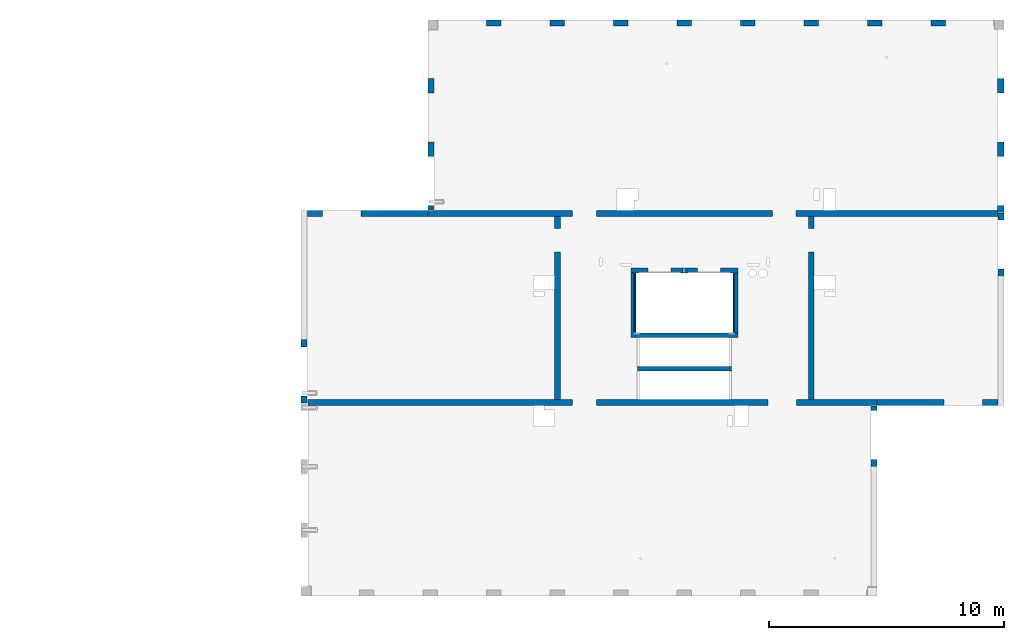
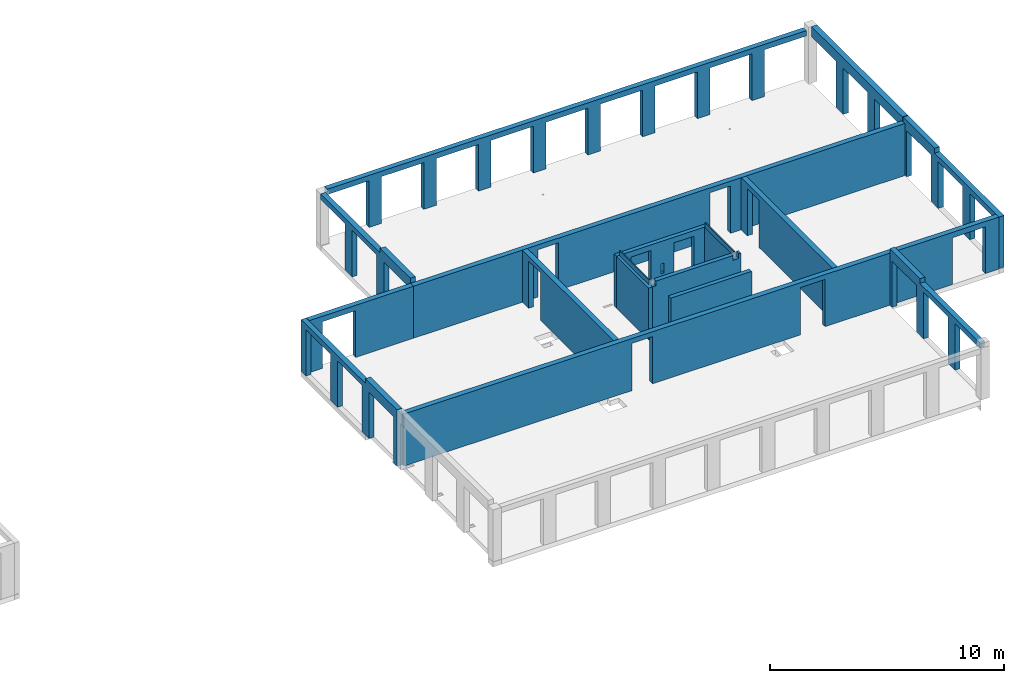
# One storey, part 4 of 8: 19 walls, 42 openings.
"""IFC2X3 building model written with IfcOpenShell, lengths in millimetres."""

import ifcopenshell
import ifcopenshell.guid

model = None  # the IFC model being written
_history = None  # IfcOwnerHistory: only IFC2X3 demands one
_inside = {}  # id of a spatial element -> (the spatial element, [elements in it])
_under = {}  # id of a project, library or spatial element -> (it, [spatial elements below it])
_declared = {}  # id of a project -> (the project, [libraries it declares])
_typed = {}  # id of a type object -> (the type object, [elements of that type])
_made_of = {}  # id of a material, layer set ... -> (it, [elements and type objects made of it])


def new_model(schema):
    """Start an empty IFC model of exactly this schema.

    Asked for "IFC4X3", IfcOpenShell would pick the latest addendum, in which some entities
    have other attributes; the version numbers below select the first issue.
    IFC2X3 requires an IfcOwnerHistory on every rooted entity: one is made here for all.
    """
    global model, _history
    if schema == "IFC4X3":
        model = ifcopenshell.file(schema_version=(4, 3, 0, 0))
    else:
        model = ifcopenshell.file(schema=schema)
    _inside.clear()
    _under.clear()
    _declared.clear()
    _typed.clear()
    _made_of.clear()
    _history = None
    if model.schema == "IFC2X3":
        org = make("IfcOrganization", Name="unknown")
        user = make(
            "IfcPersonAndOrganization",
            ThePerson=make("IfcPerson", FamilyName="unknown"),
            TheOrganization=org,
        )
        app = make(
            "IfcApplication",
            ApplicationDeveloper=org,
            Version="unknown",
            ApplicationFullName="unknown",
            ApplicationIdentifier="unknown",
        )
        _history = make(
            "IfcOwnerHistory",
            OwningUser=user,
            OwningApplication=app,
            ChangeAction="ADDED",
            CreationDate=0,
        )
    return model


def make(cls, **values):
    """One entity of the class cls with the attributes given. An attribute that is None is left unset."""
    return model.create_entity(
        cls, **{name: value for name, value in values.items() if value is not None}
    )


def entity(cls, *values):
    """Any entity or typed value of the class cls, its attributes in the order of the schema. None: left unset."""
    e = model.create_entity(cls)
    for i, value in enumerate(values):
        if value is not None:
            e[i] = value
    return e


def rooted(cls, **values):
    """An entity with a GlobalId (a new one), such as an element, a storey or a relation."""
    return make(cls, GlobalId=ifcopenshell.guid.new(), OwnerHistory=_history, **values)


def si_unit(unit_type, name, prefix=None):
    """IfcSIUnit, for example si_unit("LENGTHUNIT", "METRE", prefix="MILLI")."""
    return make("IfcSIUnit", UnitType=unit_type, Prefix=prefix, Name=name)


def converted_unit(unit_type, name, factor, base, dimensions=None, offset=None):
    """IfcConversionBasedUnit, such as the inch: factor (a typed value) times the base unit."""
    return make(
        "IfcConversionBasedUnit"
        if offset is None
        else "IfcConversionBasedUnitWithOffset",
        ConversionOffset=offset,
        Dimensions=None
        if dimensions is None
        else entity("IfcDimensionalExponents", *dimensions),
        UnitType=unit_type,
        Name=name,
        ConversionFactor=make(
            "IfcMeasureWithUnit", ValueComponent=factor, UnitComponent=base
        ),
    )


def derived_unit(unit_type, elements):
    """IfcDerivedUnit: a product of units, each with its exponent."""
    return make(
        "IfcDerivedUnit",
        Elements=[
            make("IfcDerivedUnitElement", Unit=unit, Exponent=power)
            for unit, power in elements
        ],
        UnitType=unit_type,
    )


def assignment(units):
    """IfcUnitAssignment: the units of a project."""
    return None if units is None else make("IfcUnitAssignment", Units=units)


def point(xyz):
    """IfcCartesianPoint."""
    return None if xyz is None else make("IfcCartesianPoint", Coordinates=xyz)


def direction(xyz):
    """IfcDirection."""
    return None if xyz is None else make("IfcDirection", DirectionRatios=xyz)


def frame(location, z_axis=None, x_axis=None):
    """IfcAxis2Placement3D, a coordinate frame: its origin and axes. An axis left out is left unset."""
    return make(
        "IfcAxis2Placement3D",
        Location=point(location),
        Axis=direction(z_axis),
        RefDirection=direction(x_axis),
    )


def frame_2d(location, x_axis=None):
    """IfcAxis2Placement2D, a coordinate frame in the plane: its origin and x axis."""
    return make(
        "IfcAxis2Placement2D", Location=point(location), RefDirection=direction(x_axis)
    )


def origin():
    """The frame at (0, 0, 0) with its axes left unset."""
    return frame((0.0, 0.0, 0.0))


def place(relative_to, where):
    """IfcLocalPlacement: puts the frame where relative to a parent placement (None: the world)."""
    return make(
        "IfcLocalPlacement", PlacementRelTo=relative_to, RelativePlacement=where
    )


def context(
    kind, dimensions, precision=None, world=None, true_north=None, identifier=None
):
    """IfcGeometricRepresentationContext, for example the 3D "Model" context."""
    return make(
        "IfcGeometricRepresentationContext",
        ContextIdentifier=identifier,
        ContextType=kind,
        CoordinateSpaceDimension=dimensions,
        Precision=precision,
        WorldCoordinateSystem=world,
        TrueNorth=true_north,
    )


def subcontext(parent, identifier, kind, view, scale=None):
    """IfcGeometricRepresentationSubContext, for example "Body" below "Model"."""
    return make(
        "IfcGeometricRepresentationSubContext",
        ContextIdentifier=identifier,
        ContextType=kind,
        ParentContext=parent,
        TargetScale=scale,
        TargetView=view,
    )


def project(units=None, contexts=None):
    """IfcProject with its units and contexts."""
    return rooted(
        "IfcProject",
        Name="project",
        RepresentationContexts=contexts,
        UnitsInContext=assignment(units),
    )


def spatial(cls, under=None, at=None, **own):
    """A site, building, storey or space (cls), placed at a placement, below another one or the project."""
    s = rooted(cls, ObjectPlacement=at, **own)
    if under is not None:
        _under.setdefault(under.id(), (under, []))[1].append(s)
    return s


def profile(cls, at=None, kind="AREA", **sizes):
    """A parametric profile (cls). Its sizes go by their IFC names, for example OverallWidth=200.0."""
    return make(cls, ProfileType=kind, Position=at, **sizes)


def rectangle(**sizes):
    """IfcRectangleProfileDef."""
    return profile("IfcRectangleProfileDef", **sizes)


def extrude(swept, where, along, depth):
    """IfcExtrudedAreaSolid: the profile swept, set in the frame where, extruded along a direction by depth."""
    return make(
        "IfcExtrudedAreaSolid",
        SweptArea=swept,
        Position=where,
        ExtrudedDirection=direction(along),
        Depth=depth,
    )


def shape(context_of_items, identifier, shape_type, items):
    """IfcShapeRepresentation: the items that make up one representation, for example the "Body"."""
    return make(
        "IfcShapeRepresentation",
        ContextOfItems=context_of_items,
        RepresentationIdentifier=identifier,
        RepresentationType=shape_type,
        Items=items,
    )


def material(Name=None, Category=None):
    """IfcMaterial."""
    return make("IfcMaterial", Name=Name, Category=Category)


def layer(
    of_material, thickness, ventilated=None, Name=None, Category=None, Priority=None
):
    """IfcMaterialLayer: one layer of a wall or slab, of a material (None: an air gap)."""
    return make(
        "IfcMaterialLayer",
        Material=of_material,
        LayerThickness=thickness,
        IsVentilated=ventilated,
        Name=Name,
        Category=Category,
        Priority=Priority,
    )


def layer_set(layers, Name=None):
    """IfcMaterialLayerSet."""
    return make("IfcMaterialLayerSet", MaterialLayers=layers, LayerSetName=Name)


def layer_usage(for_layer_set, set_direction, sense, offset, extent=None):
    """IfcMaterialLayerSetUsage: how a layer set lies in its element."""
    return make(
        "IfcMaterialLayerSetUsage",
        ForLayerSet=for_layer_set,
        LayerSetDirection=set_direction,
        DirectionSense=sense,
        OffsetFromReferenceLine=offset,
        ReferenceExtent=extent,
    )


def made_of(thing, what):
    """Note that an element or type object is made of a material, layer set ...; save() writes the relation."""
    if what is not None:
        _made_of.setdefault(what.id(), (what, []))[1].append(thing)
    return thing


def type_object(cls, material=None, **own):
    """A type object (cls), such as IfcWallType, which elements share."""
    return made_of(rooted(cls, **own), material)


def element(
    cls,
    number,
    at=None,
    inside=None,
    cuts=None,
    type_object=None,
    material=None,
    context=None,
    identifier="Body",
    shape_type=None,
    held_by="IfcProductDefinitionShape",
    body=None,
    shapes=None,
    **own,
):
    """One element of the class cls, such as IfcWall. Its Tag is "e" and its number.

    at: its placement. inside: the storey or other place that contains it. cuts: it is an
    opening in that element (IfcRelVoidsElement). A single representation is given by context,
    identifier, shape_type and body (its items); several are given by shapes. held_by: the class
    of the entity that holds the representations. save() writes the other relations.
    """
    e = rooted(cls, Tag="e%d" % number, ObjectPlacement=at, **own)
    if body is not None:
        shapes = [shape(context, identifier, shape_type, body)]
    if shapes is not None:
        e.Representation = make(held_by, Representations=shapes)
    if inside is not None:
        _inside.setdefault(inside.id(), (inside, []))[1].append(e)
    if cuts is not None:
        rooted(
            "IfcRelVoidsElement", RelatingBuildingElement=cuts, RelatedOpeningElement=e
        )
    if type_object is not None:
        _typed.setdefault(type_object.id(), (type_object, []))[1].append(e)
    return made_of(e, material)


def aggregate(whole, parts):
    """IfcRelAggregates: a whole, such as a stair, and the parts it consists of."""
    return rooted("IfcRelAggregates", RelatingObject=whole, RelatedObjects=parts)


def save(model, path):
    """Write the relations noted so far, then the file.

    IfcRelAggregates (storeys below a building ...), IfcRelContainedInSpatialStructure (elements
    in a storey), IfcRelDefinesByType, IfcRelAssociatesMaterial and IfcRelDeclares: one each for
    every whole, place, type object, material and project.
    """
    for whole, parts in _under.values():
        aggregate(whole, parts)
    for where, things in _inside.values():
        rooted(
            "IfcRelContainedInSpatialStructure",
            RelatedElements=things,
            RelatingStructure=where,
        )
    for kind, things in _typed.values():
        rooted("IfcRelDefinesByType", RelatedObjects=things, RelatingType=kind)
    for what, things in _made_of.values():
        rooted("IfcRelAssociatesMaterial", RelatedObjects=things, RelatingMaterial=what)
    for by, libraries in _declared.values():
        rooted("IfcRelDeclares", RelatingContext=by, RelatedDefinitions=libraries)
    model.write(path)


model = new_model("IFC2X3")

# Units and contexts
model_context = context("Model", 3, precision=0.01, world=origin(), true_north=direction((6.12303176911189e-17, 1.0)))
body_context = subcontext(model_context, "Body", "Model", "MODEL_VIEW")
ifc_project = project(units=[si_unit("LENGTHUNIT", "METRE", prefix="MILLI"), si_unit("AREAUNIT", "SQUARE_METRE"), si_unit("VOLUMEUNIT", "CUBIC_METRE"), converted_unit("PLANEANGLEUNIT", "DEGREE", entity("IfcRatioMeasure", 0.0174532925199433), si_unit("PLANEANGLEUNIT", "RADIAN"), dimensions=[0, 0, 0, 0, 0, 0, 0]), si_unit("MASSUNIT", "GRAM", prefix="KILO"), derived_unit("MASSDENSITYUNIT", [(si_unit("MASSUNIT", "GRAM", prefix="KILO"), 1), (si_unit("LENGTHUNIT", "METRE"), -3)]), si_unit("TIMEUNIT", "SECOND"), si_unit("FREQUENCYUNIT", "HERTZ"), si_unit("THERMODYNAMICTEMPERATUREUNIT", "DEGREE_CELSIUS"), derived_unit("THERMALTRANSMITTANCEUNIT", [(si_unit("MASSUNIT", "GRAM", prefix="KILO"), 1), (si_unit("THERMODYNAMICTEMPERATUREUNIT", "KELVIN"), -1), (si_unit("TIMEUNIT", "SECOND"), -3)]), derived_unit("VOLUMETRICFLOWRATEUNIT", [(si_unit("LENGTHUNIT", "METRE"), 3), (si_unit("TIMEUNIT", "SECOND"), -1)]), si_unit("ELECTRICCURRENTUNIT", "AMPERE"), si_unit("ELECTRICVOLTAGEUNIT", "VOLT"), si_unit("POWERUNIT", "WATT"), si_unit("FORCEUNIT", "NEWTON", prefix="KILO"), si_unit("ILLUMINANCEUNIT", "LUX"), si_unit("LUMINOUSFLUXUNIT", "LUMEN"), si_unit("LUMINOUSINTENSITYUNIT", "CANDELA"), derived_unit("USERDEFINED", [(si_unit("MASSUNIT", "GRAM", prefix="KILO"), -1), (si_unit("LENGTHUNIT", "METRE"), -2), (si_unit("TIMEUNIT", "SECOND"), 3), (si_unit("LUMINOUSFLUXUNIT", "LUMEN"), 1)]), derived_unit("LINEARVELOCITYUNIT", [(si_unit("LENGTHUNIT", "METRE"), 1), (si_unit("TIMEUNIT", "SECOND"), -1)]), si_unit("PRESSUREUNIT", "PASCAL"), derived_unit("USERDEFINED", [(si_unit("LENGTHUNIT", "METRE"), -2), (si_unit("MASSUNIT", "GRAM", prefix="KILO"), 1), (si_unit("TIMEUNIT", "SECOND"), -2)])], contexts=[model_context])

# Site, building, storey
site_placement = place(None, origin())
site = spatial("IfcSite", under=ifc_project, at=site_placement, Name="Default", CompositionType="ELEMENT")
building_placement = place(site_placement, origin())
building = spatial("IfcBuilding", under=site, at=building_placement, Name="niet gebruiken", CompositionType="ELEMENT")
storey_placement = place(building_placement, frame((0.0, 0.0, 51210.0)))
storey = spatial("IfcBuildingStorey", under=building, at=storey_placement, Name="17 zeventiende verdieping", CompositionType="ELEMENT", Elevation=51210.0)

# Wall, openings
ifc_material_1 = material(Name="NLRS_f2_beton ihwg")
ifc_layer_1 = layer(ifc_material_1, 250.0)
ifc_layer_set_1 = layer_set([ifc_layer_1], Name="Basic Wall:NLRS_22.21_WA_beton ihwg d=250_gen")
ifc_layer_usage_1 = layer_usage(ifc_layer_set_1, "AXIS2", "NEGATIVE", 125.0)
wall_type_1 = type_object("IfcWallType", Name="Basic Wall:NLRS_22.21_WA_beton ihwg d=250_gen", PredefinedType="STANDARD", material=ifc_layer_set_1)
wall_1_placement = place(storey_placement, frame((75770.0, 36981.0, -90.0)))
wall_1 = element("IfcWallStandardCase", 1, at=wall_1_placement, inside=storey, type_object=wall_type_1, material=ifc_layer_usage_1, Name="Basic Wall:NLRS_22.21_WA_beton ihwg d=250_gen", ObjectType="Basic Wall:NLRS_22.21_WA_beton ihwg d=250_gen", context=body_context, shape_type="SweptSolid", body=[
    extrude(rectangle(XDim=24230.0000000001, YDim=250.000000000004, at=frame_2d((12115.0, 0.0), x_axis=(-1.0, 0.0))), origin(), (0.0, 0.0, 1.0), 2719.99999999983),
])
opening_1_placement = place(wall_1_placement, origin())
element("IfcOpeningElement", 2, at=opening_1_placement, cuts=wall_1, Name="Basic Wall:NLRS_22.21_WA_beton ihwg d=250_gen", ObjectType="Opening", context=body_context, shape_type="SweptSolid", body=[
    extrude(rectangle(XDim=2470.0, YDim=1225.0, at=frame_2d((-8.69704308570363e-12, 4.43378667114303e-12), x_axis=(0.0, 1.0))), frame((20192.5000000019, -1399.0, 1235.0), z_axis=(0.0, 1.0, 0.0), x_axis=(-1.0, 0.0, 0.0)), (0.0, 0.0, 1.0), 3048.0),
])
opening_2_placement = place(wall_1_placement, origin())
element("IfcOpeningElement", 3, at=opening_2_placement, cuts=wall_1, Name="Basic Wall:NLRS_22.21_WA_beton ihwg d=250_gen", ObjectType="Opening", context=body_context, shape_type="SweptSolid", body=[
    extrude(rectangle(XDim=2470.0, YDim=1006.0, at=frame_2d((8.66862137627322e-12, -4.43378667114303e-12), x_axis=(0.0, 1.0))), frame((11782.0, -1399.0, 1235.0), z_axis=(0.0, 1.0, 0.0), x_axis=(-1.0, 0.0, 0.0)), (0.0, 0.0, 1.0), 3048.0),
])
opening_3_placement = place(wall_1_placement, origin())
element("IfcOpeningElement", 4, at=opening_3_placement, cuts=wall_1, Name="Basic Wall:NLRS_22.21_WA_beton ihwg d=250_gen", ObjectType="Recess", context=body_context, shape_type="SweptSolid", body=[
    extrude(rectangle(XDim=55000.0, YDim=19.9999999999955, at=frame_2d((0.0, 4.33164615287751e-12), x_axis=(1.0, 0.0))), frame((10.0, -140.0, -11110.0), z_axis=(0.0, 1.0, 0.0), x_axis=(0.0, 0.0, -1.0)), (0.0, 0.0, 1.0), 124.999999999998),
])

# Wall, opening
ifc_layer_usage_2 = layer_usage(ifc_layer_set_1, "AXIS2", "NEGATIVE", 125.0)
wall_2_placement = place(storey_placement, frame((75770.0, 45031.0, -90.0)))
wall_2 = element("IfcWallStandardCase", 5, at=wall_2_placement, inside=storey, type_object=wall_type_1, material=ifc_layer_usage_2, Name="Basic Wall:NLRS_22.21_WA_beton ihwg d=250_gen", ObjectType="Basic Wall:NLRS_22.21_WA_beton ihwg d=250_gen", context=body_context, shape_type="SweptSolid", body=[
    extrude(rectangle(XDim=5130.0, YDim=249.999999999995, at=frame_2d((2565.0, 0.0), x_axis=(-1.0, 0.0))), origin(), (0.0, 0.0, 1.0), 2719.99999999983),
])
opening_4_placement = place(wall_2_placement, origin())
element("IfcOpeningElement", 6, at=opening_4_placement, cuts=wall_2, Name="Basic Wall:NLRS_22.21_WA_beton ihwg d=250_gen", ObjectType="Opening", context=body_context, shape_type="SweptSolid", body=[
    extrude(rectangle(XDim=2440.0, YDim=1640.0, at=frame_2d((0.0, 4.37694325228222e-12), x_axis=(1.0, 0.0))), frame((1460.0, -1649.0, 1220.0), z_axis=(0.0, 1.0, 0.0), x_axis=(0.0, 0.0, 1.0)), (0.0, 0.0, 1.0), 3048.0),
])

ifc_layer_usage_3 = layer_usage(ifc_layer_set_1, "AXIS2", "NEGATIVE", 125.0)
wall_3_placement = place(storey_placement, frame((86400.0, 44906.0, -90.0), z_axis=(0.0, 0.0, 1.0), x_axis=(0.0, -1.0, 0.0)))
wall_3 = element("IfcWallStandardCase", 7, at=wall_3_placement, inside=storey, type_object=wall_type_1, material=ifc_layer_usage_3, Name="Basic Wall:NLRS_22.21_WA_beton ihwg d=250_gen", ObjectType="Basic Wall:NLRS_22.21_WA_beton ihwg d=250_gen", context=body_context, shape_type="SweptSolid", body=[
    extrude(rectangle(XDim=7799.99999999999, YDim=250.000000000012, at=frame_2d((3900.0, 0.0), x_axis=(-1.0, 0.0))), origin(), (0.0, 0.0, 1.0), 2719.99999999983),
])
opening_5_placement = place(wall_3_placement, origin())
element("IfcOpeningElement", 8, at=opening_5_placement, cuts=wall_3, Name="Basic Wall:NLRS_22.21_WA_beton ihwg d=250_gen", ObjectType="Opening", context=body_context, shape_type="SweptSolid", body=[
    extrude(rectangle(XDim=2470.0, YDim=1006.0, at=frame_2d((4.43378667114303e-12, 0.0), x_axis=(1.0, 0.0))), frame((1027.0, -1649.0, 1235.0), z_axis=(0.0, 1.0, 0.0), x_axis=(0.0, 0.0, 1.0)), (0.0, 0.0, 1.0), 3048.0),
])

ifc_layer_usage_4 = layer_usage(ifc_layer_set_1, "AXIS2", "NEGATIVE", 125.0)
wall_4_placement = place(storey_placement, frame((97200.0, 44906.0, -90.0), z_axis=(0.0, 0.0, 1.0), x_axis=(0.0, -1.0, 0.0)))
wall_4 = element("IfcWallStandardCase", 9, at=wall_4_placement, inside=storey, type_object=wall_type_1, material=ifc_layer_usage_4, Name="Basic Wall:NLRS_22.21_WA_beton ihwg d=250_gen", ObjectType="Basic Wall:NLRS_22.21_WA_beton ihwg d=250_gen", context=body_context, shape_type="SweptSolid", body=[
    extrude(rectangle(XDim=7799.99999999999, YDim=250.000000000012, at=frame_2d((3900.0, 0.0), x_axis=(-1.0, 0.0))), origin(), (0.0, 0.0, 1.0), 2719.99999999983),
])
opening_6_placement = place(wall_4_placement, origin())
element("IfcOpeningElement", 10, at=opening_6_placement, cuts=wall_4, Name="Basic Wall:NLRS_22.21_WA_beton ihwg d=250_gen", ObjectType="Opening", context=body_context, shape_type="SweptSolid", body=[
    extrude(rectangle(XDim=2470.0, YDim=1006.0, at=frame_2d((-4.43378667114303e-12, 0.0), x_axis=(1.0, 0.0))), frame((1027.0, -1649.0, 1235.0), z_axis=(0.0, 1.0, 0.0), x_axis=(0.0, 0.0, 1.0)), (0.0, 0.0, 1.0), 3048.0),
])

# Wall, openings
ifc_layer_usage_5 = layer_usage(ifc_layer_set_1, "AXIS2", "NEGATIVE", 125.0)
wall_5_placement = place(storey_placement, frame((80900.0, 45031.0, -90.0)))
wall_5 = element("IfcWallStandardCase", 11, at=wall_5_placement, inside=storey, type_object=wall_type_1, material=ifc_layer_usage_5, Name="Basic Wall:NLRS_22.21_WA_beton ihwg d=250_gen", ObjectType="Basic Wall:NLRS_22.21_WA_beton ihwg d=250_gen", context=body_context, shape_type="SweptSolid", body=[
    extrude(rectangle(XDim=24250.0, YDim=249.999999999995, at=frame_2d((12125.0, 0.0), x_axis=(-1.0, 0.0))), origin(), (0.0, 0.0, 1.0), 2719.99999999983),
])
opening_7_placement = place(wall_5_placement, origin())
element("IfcOpeningElement", 12, at=opening_7_placement, cuts=wall_5, Name="Basic Wall:NLRS_22.21_WA_beton ihwg d=250_gen", ObjectType="Opening", context=body_context, shape_type="SweptSolid", body=[
    extrude(rectangle(XDim=2470.0, YDim=1006.0, at=frame_2d((-4.43378667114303e-12, 8.66862137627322e-12), x_axis=(1.0, 0.0))), frame((15148.0, -1649.0, 1235.0), z_axis=(0.0, 1.0, 0.0), x_axis=(0.0, 0.0, 1.0)), (0.0, 0.0, 1.0), 3048.0),
])
opening_8_placement = place(wall_5_placement, origin())
element("IfcOpeningElement", 13, at=opening_8_placement, cuts=wall_5, Name="Basic Wall:NLRS_22.21_WA_beton ihwg d=250_gen", ObjectType="Opening", context=body_context, shape_type="SweptSolid", body=[
    extrude(rectangle(XDim=2470.0, YDim=1006.0, at=frame_2d((4.43378667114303e-12, 8.66862137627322e-12), x_axis=(1.0, 0.0))), frame((6652.0, -1649.0, 1235.0), z_axis=(0.0, 1.0, 0.0), x_axis=(0.0, 0.0, 1.0)), (0.0, 0.0, 1.0), 3048.0),
])

# Wall, opening
ifc_layer_usage_6 = layer_usage(ifc_layer_set_1, "AXIS2", "NEGATIVE", 125.0)
wall_6_placement = place(storey_placement, frame((100000.0, 36981.0, -90.0)))
wall_6 = element("IfcWallStandardCase", 14, at=wall_6_placement, inside=storey, type_object=wall_type_1, material=ifc_layer_usage_6, Name="Basic Wall:NLRS_22.21_WA_beton ihwg d=250_gen", ObjectType="Basic Wall:NLRS_22.21_WA_beton ihwg d=250_gen", context=body_context, shape_type="SweptSolid", body=[
    extrude(rectangle(XDim=5149.99999999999, YDim=250.000000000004, at=frame_2d((2575.0, 0.0), x_axis=(-1.0, 0.0))), origin(), (0.0, 0.0, 1.0), 2719.99999999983),
])
opening_9_placement = place(wall_6_placement, origin())
element("IfcOpeningElement", 15, at=opening_9_placement, cuts=wall_6, Name="Basic Wall:NLRS_22.21_WA_beton ihwg d=250_gen", ObjectType="Opening", context=body_context, shape_type="SweptSolid", body=[
    extrude(rectangle(XDim=2440.0, YDim=1639.99999999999, at=frame_2d((-8.69704308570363e-12, 0.0), x_axis=(0.0, 1.0))), frame((3670.0, -1399.0, 1220.0), z_axis=(0.0, 1.0, 0.0), x_axis=(-1.0, 0.0, 0.0)), (0.0, 0.0, 1.0), 3048.0),
])

# Wall, openings
ifc_material_2 = material(Name="NLRS_f2_beton prefab")
ifc_layer_2 = layer(ifc_material_2, 250.0)
ifc_layer_set_2 = layer_set([ifc_layer_2], Name="Basic Wall:NLRS_21.21_WA_beton prefab d=250_gen")
ifc_layer_usage_7 = layer_usage(ifc_layer_set_2, "AXIS2", "NEGATIVE", 125.0)
wall_type_2 = type_object("IfcWallType", Name="Basic Wall:NLRS_21.21_WA_beton prefab d=250_gen", PredefinedType="STANDARD", material=ifc_layer_set_2)
wall_7_placement = place(storey_placement, frame((75625.0, 45156.0, -70.0), z_axis=(0.0, 0.0, 1.0), x_axis=(0.0, -1.0, 0.0)))
wall_7 = element("IfcWallStandardCase", 16, at=wall_7_placement, inside=storey, type_object=wall_type_2, material=ifc_layer_usage_7, Name="Basic Wall:NLRS_21.21_WA_beton prefab d=250_gen", ObjectType="Basic Wall:NLRS_21.21_WA_beton prefab d=250_gen", context=body_context, shape_type="SweptSolid", body=[
    extrude(rectangle(XDim=8189.99999999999, YDim=249.999999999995, at=frame_2d((4095.0, 0.0), x_axis=(-1.0, 0.0))), origin(), (0.0, 0.0, 1.0), 2949.99999999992),
])
opening_10_placement = place(wall_7_placement, origin())
element("IfcOpeningElement", 17, at=opening_10_placement, cuts=wall_7, Name="Basic Wall:NLRS_21.21_WA_beton prefab d=250_gen", ObjectType="Opening", context=body_context, shape_type="SweptSolid", body=[
    extrude(rectangle(XDim=2420.0, YDim=2080.0, at=frame_2d((0.0, 0.0), x_axis=(0.0, 1.0))), frame((1450.0, -1399.0, 1210.0), z_axis=(0.0, 1.0, 0.0), x_axis=(-1.0, 0.0, 0.0)), (0.0, 0.0, 1.0), 3048.0),
])
opening_11_placement = place(wall_7_placement, origin())
element("IfcOpeningElement", 18, at=opening_11_placement, cuts=wall_7, Name="Basic Wall:NLRS_21.21_WA_beton prefab d=250_gen", ObjectType="Opening", context=body_context, shape_type="SweptSolid", body=[
    extrude(rectangle(XDim=2420.0, YDim=2080.0, at=frame_2d((0.0, 0.0), x_axis=(0.0, 1.0))), frame((4150.0, -1399.0, 1210.0), z_axis=(0.0, 1.0, 0.0), x_axis=(-1.0, 0.0, 0.0)), (0.0, 0.0, 1.0), 3048.0),
])
opening_12_placement = place(wall_7_placement, origin())
element("IfcOpeningElement", 19, at=opening_12_placement, cuts=wall_7, Name="Basic Wall:NLRS_21.21_WA_beton prefab d=250_gen", ObjectType="Opening", context=body_context, shape_type="SweptSolid", body=[
    extrude(rectangle(XDim=2420.0, YDim=2080.0, at=frame_2d((0.0, 0.0), x_axis=(0.0, 1.0))), frame((6850.0, -1399.0, 1210.0), z_axis=(0.0, 1.0, 0.0), x_axis=(-1.0, 0.0, 0.0)), (0.0, 0.0, 1.0), 3048.0),
])
opening_13_placement = place(wall_7_placement, origin())
element("IfcOpeningElement", 20, at=opening_13_placement, cuts=wall_7, Name="Basic Wall:NLRS_21.21_WA_beton prefab d=250_gen", ObjectType="Opening", context=body_context, shape_type="SweptSolid", body=[
    extrude(rectangle(XDim=250.000000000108, YDim=5499.99999999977, at=frame_2d((0.0, -4.32720526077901e-12), x_axis=(0.0, 1.0))), frame((2750.0, 125.0, 2825.0), z_axis=(0.0, -1.0, 0.0), x_axis=(-1.0, 0.0, 0.0)), (0.0, 0.0, 1.0), 250.0),
])

ifc_layer_usage_8 = layer_usage(ifc_layer_set_2, "AXIS2", "NEGATIVE", 125.0)
wall_8_placement = place(storey_placement, frame((81025.0, 52846.0, -70.0), z_axis=(0.0, 0.0, 1.0), x_axis=(0.0, -1.0, 0.0)))
wall_8 = element("IfcWallStandardCase", 21, at=wall_8_placement, inside=storey, type_object=wall_type_2, material=ifc_layer_usage_8, Name="Basic Wall:NLRS_21.21_WA_beton prefab d=250_gen", ObjectType="Basic Wall:NLRS_21.21_WA_beton prefab d=250_gen", context=body_context, shape_type="SweptSolid", body=[
    extrude(rectangle(XDim=7670.00000000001, YDim=250.000000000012, at=frame_2d((3835.0, 0.0), x_axis=(-1.0, 0.0))), origin(), (0.0, 0.0, 1.0), 2949.99999999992),
])
opening_14_placement = place(wall_8_placement, origin())
element("IfcOpeningElement", 22, at=opening_14_placement, cuts=wall_8, Name="Basic Wall:NLRS_21.21_WA_beton prefab d=250_gen", ObjectType="Opening", context=body_context, shape_type="SweptSolid", body=[
    extrude(rectangle(XDim=2420.0, YDim=2080.0, at=frame_2d((0.0, 0.0), x_axis=(0.0, 1.0))), frame((1040.0, -1399.0, 1210.0), z_axis=(0.0, 1.0, 0.0), x_axis=(-1.0, 0.0, 0.0)), (0.0, 0.0, 1.0), 3048.0),
])
opening_15_placement = place(wall_8_placement, origin())
element("IfcOpeningElement", 23, at=opening_15_placement, cuts=wall_8, Name="Basic Wall:NLRS_21.21_WA_beton prefab d=250_gen", ObjectType="Opening", context=body_context, shape_type="SweptSolid", body=[
    extrude(rectangle(XDim=2420.0, YDim=2080.0, at=frame_2d((0.0, 0.0), x_axis=(0.0, 1.0))), frame((3740.0, -1399.0, 1210.0), z_axis=(0.0, 1.0, 0.0), x_axis=(-1.0, 0.0, 0.0)), (0.0, 0.0, 1.0), 3048.0),
])
opening_16_placement = place(wall_8_placement, origin())
element("IfcOpeningElement", 24, at=opening_16_placement, cuts=wall_8, Name="Basic Wall:NLRS_21.21_WA_beton prefab d=250_gen", ObjectType="Opening", context=body_context, shape_type="SweptSolid", body=[
    extrude(rectangle(XDim=2420.0, YDim=2080.0, at=frame_2d((0.0, 0.0), x_axis=(0.0, 1.0))), frame((6440.0, -1399.0, 1210.0), z_axis=(0.0, 1.0, 0.0), x_axis=(-1.0, 0.0, 0.0)), (0.0, 0.0, 1.0), 3048.0),
])
opening_17_placement = place(wall_8_placement, origin())
element("IfcOpeningElement", 25, at=opening_17_placement, cuts=wall_8, Name="Basic Wall:NLRS_21.21_WA_beton prefab d=250_gen", ObjectType="Opening", context=body_context, shape_type="SweptSolid", body=[
    extrude(rectangle(XDim=250.000000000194, YDim=5089.99999999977, at=frame_2d((4.32009983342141e-12, -4.32720526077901e-12), x_axis=(0.0, 1.0))), frame((2545.0, 125.0, 2825.0), z_axis=(0.0, -1.0, 0.0), x_axis=(-1.0, 0.0, 0.0)), (0.0, 0.0, 1.0), 250.0),
])

ifc_layer_usage_9 = layer_usage(ifc_layer_set_2, "AXIS2", "NEGATIVE", 125.0)
wall_9_placement = place(storey_placement, frame((105275.0, 45046.0, -70.0), z_axis=(0.0, 0.0, 1.0), x_axis=(0.0, -1.0, 0.0)))
wall_9 = element("IfcWallStandardCase", 26, at=wall_9_placement, inside=storey, type_object=wall_type_2, material=ifc_layer_usage_9, Name="Basic Wall:NLRS_21.21_WA_beton prefab d=250_gen", ObjectType="Basic Wall:NLRS_21.21_WA_beton prefab d=250_gen", context=body_context, shape_type="SweptSolid", body=[
    extrude(rectangle(XDim=8189.99999999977, YDim=250.000000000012, at=frame_2d((4094.99999999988, 0.0), x_axis=(-1.0, 0.0))), origin(), (0.0, 0.0, 1.0), 2949.99999999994),
])
opening_18_placement = place(wall_9_placement, origin())
element("IfcOpeningElement", 27, at=opening_18_placement, cuts=wall_9, Name="Basic Wall:NLRS_21.21_WA_beton prefab d=250_gen", ObjectType="Opening", context=body_context, shape_type="SweptSolid", body=[
    extrude(rectangle(XDim=2420.0, YDim=2080.0, at=frame_2d((0.0, 0.0), x_axis=(0.0, 1.0))), frame((1340.0, -1399.0, 1210.0), z_axis=(0.0, 1.0, 0.0), x_axis=(-1.0, 0.0, 0.0)), (0.0, 0.0, 1.0), 3048.0),
])
opening_19_placement = place(wall_9_placement, origin())
element("IfcOpeningElement", 28, at=opening_19_placement, cuts=wall_9, Name="Basic Wall:NLRS_21.21_WA_beton prefab d=250_gen", ObjectType="Opening", context=body_context, shape_type="SweptSolid", body=[
    extrude(rectangle(XDim=2420.0, YDim=2080.0, at=frame_2d((0.0, 0.0), x_axis=(0.0, 1.0))), frame((4040.0, -1399.0, 1210.0), z_axis=(0.0, 1.0, 0.0), x_axis=(-1.0, 0.0, 0.0)), (0.0, 0.0, 1.0), 3048.0),
])
opening_20_placement = place(wall_9_placement, origin())
element("IfcOpeningElement", 29, at=opening_20_placement, cuts=wall_9, Name="Basic Wall:NLRS_21.21_WA_beton prefab d=250_gen", ObjectType="Opening", context=body_context, shape_type="SweptSolid", body=[
    extrude(rectangle(XDim=2420.0, YDim=2080.0, at=frame_2d((0.0, 0.0), x_axis=(0.0, 1.0))), frame((6740.0, -1399.0, 1210.0), z_axis=(0.0, 1.0, 0.0), x_axis=(-1.0, 0.0, 0.0)), (0.0, 0.0, 1.0), 3048.0),
])
opening_21_placement = place(wall_9_placement, origin())
element("IfcOpeningElement", 30, at=opening_21_placement, cuts=wall_9, Name="Basic Wall:NLRS_21.21_WA_beton prefab d=250_gen", ObjectType="Opening", context=body_context, shape_type="SweptSolid", body=[
    extrude(rectangle(XDim=249.999999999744, YDim=5500.0000000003, at=frame_2d((-4.33431068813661e-12, 4.32009983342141e-12), x_axis=(1.0, 0.0))), frame((5440.0, 125.0, 2825.0), z_axis=(0.0, -1.0, 0.0), x_axis=(0.0, 0.0, 1.0)), (0.0, 0.0, 1.0), 250.0),
])

ifc_layer_usage_10 = layer_usage(ifc_layer_set_2, "AXIS2", "NEGATIVE", 125.0)
wall_10_placement = place(storey_placement, frame((99875.0, 29166.0, -70.0), z_axis=(0.0, 0.0, 1.0), x_axis=(0.0, 1.0, 0.0)))
wall_10 = element("IfcWallStandardCase", 31, at=wall_10_placement, inside=storey, type_object=wall_type_2, material=ifc_layer_usage_10, Name="Basic Wall:NLRS_21.21_WA_beton prefab d=250_gen", ObjectType="Basic Wall:NLRS_21.21_WA_beton prefab d=250_gen", context=body_context, shape_type="SweptSolid", body=[
    extrude(rectangle(XDim=7669.99999999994, YDim=250.000000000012, at=frame_2d((3834.99999999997, 0.0), x_axis=(-1.0, 0.0))), origin(), (0.0, 0.0, 1.0), 2949.99999999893),
])
opening_22_placement = place(wall_10_placement, origin())
element("IfcOpeningElement", 32, at=opening_22_placement, cuts=wall_10, Name="Basic Wall:NLRS_21.21_WA_beton prefab d=250_gen", ObjectType="Opening", context=body_context, shape_type="SweptSolid", body=[
    extrude(rectangle(XDim=2420.0, YDim=2080.0, at=frame_2d((-2.1600499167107e-12, 0.0), x_axis=(0.0, 1.0))), frame((1040.0, -1399.0, 1210.0), z_axis=(0.0, 1.0, 0.0), x_axis=(-1.0, 0.0, 0.0)), (0.0, 0.0, 1.0), 3048.0),
])
opening_23_placement = place(wall_10_placement, origin())
element("IfcOpeningElement", 33, at=opening_23_placement, cuts=wall_10, Name="Basic Wall:NLRS_21.21_WA_beton prefab d=250_gen", ObjectType="Opening", context=body_context, shape_type="SweptSolid", body=[
    extrude(rectangle(XDim=2420.0, YDim=2080.0, at=frame_2d((2.1600499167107e-12, 0.0), x_axis=(0.0, 1.0))), frame((6440.0, -1399.0, 1210.0), z_axis=(0.0, 1.0, 0.0), x_axis=(-1.0, 0.0, 0.0)), (0.0, 0.0, 1.0), 3048.0),
])
opening_24_placement = place(wall_10_placement, origin())
element("IfcOpeningElement", 34, at=opening_24_placement, cuts=wall_10, Name="Basic Wall:NLRS_21.21_WA_beton prefab d=250_gen", ObjectType="Opening", context=body_context, shape_type="SweptSolid", body=[
    extrude(rectangle(XDim=2420.0, YDim=2080.0, at=frame_2d((2.1600499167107e-12, 0.0), x_axis=(0.0, 1.0))), frame((3740.0, -1399.0, 1210.0), z_axis=(0.0, 1.0, 0.0), x_axis=(-1.0, 0.0, 0.0)), (0.0, 0.0, 1.0), 3048.0),
])
opening_25_placement = place(wall_10_placement, origin())
element("IfcOpeningElement", 35, at=opening_25_placement, cuts=wall_10, Name="Basic Wall:NLRS_21.21_WA_beton prefab d=250_gen", ObjectType="Opening", context=body_context, shape_type="SweptSolid", body=[
    extrude(rectangle(XDim=249.999999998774, YDim=5090.00000000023, at=frame_2d((0.0, 4.32720526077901e-12), x_axis=(0.0, 1.0))), frame((2545.0, 125.0, 2825.0), z_axis=(0.0, -1.0, 0.0), x_axis=(-1.0, 0.0, 0.0)), (0.0, 0.0, 1.0), 250.0),
])

# Wall
ifc_layer_3 = layer(ifc_material_2, 200.0)
ifc_layer_set_3 = layer_set([ifc_layer_3], Name="Basic Wall:NLRS_21.21_WA_beton prefab d=200_gen")
ifc_layer_usage_11 = layer_usage(ifc_layer_set_3, "AXIS2", "NEGATIVE", 100.0)
wall_type_3 = type_object("IfcWallType", Name="Basic Wall:NLRS_21.21_WA_beton prefab d=200_gen", PredefinedType="STANDARD", material=ifc_layer_set_3)
wall_11_placement = place(storey_placement, frame((89800.0, 38426.0, -70.0)))
element("IfcWallStandardCase", 36, at=wall_11_placement, inside=storey, type_object=wall_type_3, material=ifc_layer_usage_11, Name="Basic Wall:NLRS_21.21_WA_beton prefab d=200_gen", ObjectType="Basic Wall:NLRS_21.21_WA_beton prefab d=200_gen", context=body_context, shape_type="SweptSolid", body=[
    extrude(rectangle(XDim=3999.99999999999, YDim=199.999999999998, at=frame_2d((2000.0, 0.0), x_axis=(-1.0, 0.0))), origin(), (0.0, 0.0, 1.0), 2950.00000000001),
])

# Wall, openings
ifc_layer_4 = layer(ifc_material_2, 200.0)
ifc_layer_set_4 = layer_set([ifc_layer_4], Name="Basic Wall:NLRS_22.21_WA_beton prefab d=200_gen")
ifc_layer_usage_12 = layer_usage(ifc_layer_set_4, "AXIS2", "NEGATIVE", 100.0)
wall_type_4 = type_object("IfcWallType", Name="Basic Wall:NLRS_22.21_WA_beton prefab d=200_gen", PredefinedType="STANDARD", material=ifc_layer_set_4)
wall_12_placement = place(storey_placement, frame((89525.0, 42596.0, -70.0)))
wall_12 = element("IfcWallStandardCase", 37, at=wall_12_placement, inside=storey, type_object=wall_type_4, material=ifc_layer_usage_12, Name="Basic Wall:NLRS_22.21_WA_beton prefab d=200_gen", ObjectType="Basic Wall:NLRS_22.21_WA_beton prefab d=200_gen", context=body_context, shape_type="SweptSolid", body=[
    extrude(rectangle(XDim=4550.00000000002, YDim=200.000000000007, at=frame_2d((2275.00000000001, 7.8159700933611e-13), x_axis=(-1.0, 0.0))), origin(), (0.0, 0.0, 1.0), 2700.00000000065),
])
opening_26_placement = place(wall_12_placement, origin())
element("IfcOpeningElement", 38, at=opening_26_placement, cuts=wall_12, Name="Basic Wall:NLRS_22.21_WA_beton prefab d=200_gen", ObjectType="Opening", context=body_context, shape_type="SweptSolid", body=[
    extrude(rectangle(XDim=2430.0, YDim=980.000000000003, at=frame_2d((0.0, -8.66862137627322e-12), x_axis=(1.0, 0.0))), frame((1219.99984910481, -1624.0, 1195.0), z_axis=(0.0, 1.0, 0.0), x_axis=(0.0, 0.0, 1.0)), (0.0, 0.0, 1.0), 3048.0),
])
opening_27_placement = place(wall_12_placement, origin())
element("IfcOpeningElement", 39, at=opening_27_placement, cuts=wall_12, Name="Basic Wall:NLRS_22.21_WA_beton prefab d=200_gen", ObjectType="Opening", context=body_context, shape_type="SweptSolid", body=[
    extrude(rectangle(XDim=2430.0, YDim=980.000000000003, at=frame_2d((0.0, -8.66862137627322e-12), x_axis=(1.0, 0.0))), frame((3329.99984910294, -1624.0, 1195.0), z_axis=(0.0, 1.0, 0.0), x_axis=(0.0, 0.0, 1.0)), (0.0, 0.0, 1.0), 3048.0),
])
opening_28_placement = place(wall_12_placement, origin())
element("IfcOpeningElement", 40, at=opening_28_placement, cuts=wall_12, Name="Basic Wall:NLRS_22.21_WA_beton prefab d=200_gen", ObjectType="Opening", context=body_context, shape_type="SweptSolid", body=[
    extrude(rectangle(XDim=505.000000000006, YDim=135.000000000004, at=frame_2d((4.33431068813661e-12, -8.66151594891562e-12), x_axis=(1.0, 0.0))), frame((2275.0, -1624.0, 1272.49999999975), z_axis=(0.0, 1.0, 0.0), x_axis=(0.0, 0.0, 1.0)), (0.0, 0.0, 1.0), 3048.0),
])

# Wall
ifc_layer_usage_13 = layer_usage(ifc_layer_set_4, "AXIS2", "NEGATIVE", 100.0)
wall_13_placement = place(storey_placement, frame((89625.0, 42496.0, -70.0), z_axis=(0.0, 0.0, 1.0), x_axis=(0.0, -1.0, 0.0)))
element("IfcWallStandardCase", 41, at=wall_13_placement, inside=storey, type_object=wall_type_4, material=ifc_layer_usage_13, Name="Basic Wall:NLRS_22.21_WA_beton prefab d=200_gen", ObjectType="Basic Wall:NLRS_22.21_WA_beton prefab d=200_gen", context=body_context, shape_type="SweptSolid", body=[
    extrude(rectangle(XDim=2749.99999999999, YDim=199.999999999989, at=frame_2d((1375.0, 0.0), x_axis=(-1.0, 0.0))), origin(), (0.0, 0.0, 1.0), 2699.99999999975),
])

# Wall, openings
ifc_layer_usage_14 = layer_usage(ifc_layer_set_4, "AXIS2", "NEGATIVE", 100.0)
wall_14_placement = place(storey_placement, frame((94075.0, 39846.0, -70.0), z_axis=(0.0, 0.0, 1.0), x_axis=(-1.0, 0.0, 0.0)))
wall_14 = element("IfcWallStandardCase", 42, at=wall_14_placement, inside=storey, type_object=wall_type_4, material=ifc_layer_usage_14, Name="Basic Wall:NLRS_22.21_WA_beton prefab d=200_gen", ObjectType="Basic Wall:NLRS_22.21_WA_beton prefab d=200_gen", context=body_context, shape_type="SweptSolid", body=[
    extrude(rectangle(XDim=4350.00000000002, YDim=200.000000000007, at=frame_2d((2175.00000000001, 0.0), x_axis=(-1.0, 0.0))), origin(), (0.0, 0.0, 1.0), 2949.99999999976),
])
opening_29_placement = place(wall_14_placement, origin())
element("IfcOpeningElement", 43, at=opening_29_placement, cuts=wall_14, Name="Basic Wall:NLRS_22.21_WA_beton prefab d=200_gen", ObjectType="Opening", context=body_context, shape_type="SweptSolid", body=[
    extrude(rectangle(XDim=249.999999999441, YDim=274.999967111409, at=frame_2d((-8.66862137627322e-12, 8.65441052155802e-12), x_axis=(1.0, 0.0))), frame((4312.50001644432, 100.0, 2825.0), z_axis=(0.0, -1.0, 0.0), x_axis=(0.0, 0.0, 1.0)), (0.0, 0.0, 1.0), 200.0),
])
opening_30_placement = place(wall_14_placement, origin())
element("IfcOpeningElement", 44, at=opening_30_placement, cuts=wall_14, Name="Basic Wall:NLRS_22.21_WA_beton prefab d=200_gen", ObjectType="Opening", context=body_context, shape_type="SweptSolid", body=[
    extrude(rectangle(XDim=249.999999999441, YDim=274.999967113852, at=frame_2d((0.0, 8.66862137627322e-12), x_axis=(0.0, 1.0))), frame((237.499983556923, 100.0, 2825.0), z_axis=(0.0, -1.0, 0.0), x_axis=(-1.0, 0.0, 0.0)), (0.0, 0.0, 1.0), 200.0),
])

# Wall
ifc_layer_usage_15 = layer_usage(ifc_layer_set_4, "AXIS2", "NEGATIVE", 100.0)
wall_15_placement = place(storey_placement, frame((93975.0, 39946.0, -70.0), z_axis=(0.0, 0.0, 1.0), x_axis=(0.0, 1.0, 0.0)))
element("IfcWallStandardCase", 45, at=wall_15_placement, inside=storey, type_object=wall_type_4, material=ifc_layer_usage_15, Name="Basic Wall:NLRS_22.21_WA_beton prefab d=200_gen", ObjectType="Basic Wall:NLRS_22.21_WA_beton prefab d=200_gen", context=body_context, shape_type="SweptSolid", body=[
    extrude(rectangle(XDim=2549.99999999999, YDim=199.999999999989, at=frame_2d((1275.0, 0.0), x_axis=(-1.0, 0.0))), origin(), (0.0, 0.0, 1.0), 2699.99999999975),
])

# Wall, openings
ifc_layer_5 = layer(ifc_material_1, 250.0)
ifc_layer_set_5 = layer_set([ifc_layer_5], Name="Basic Wall:NLRS_21.21_WA_beton ihwg d=250_gen")
ifc_layer_usage_16 = layer_usage(ifc_layer_set_5, "AXIS2", "NEGATIVE", 125.0)
wall_type_5 = type_object("IfcWallType", Name="Basic Wall:NLRS_21.21_WA_beton ihwg d=250_gen", PredefinedType="STANDARD", material=ifc_layer_set_5)
wall_16_placement = place(storey_placement, frame((104970.0, 53131.0, -90.0), z_axis=(0.0, 0.0, 1.0), x_axis=(-1.0, 0.0, 0.0)))
wall_16 = element("IfcWallStandardCase", 46, at=wall_16_placement, inside=storey, type_object=wall_type_5, material=ifc_layer_usage_16, Name="Basic Wall:NLRS_21.21_WA_beton ihwg d=250_gen", ObjectType="Basic Wall:NLRS_21.21_WA_beton ihwg d=250_gen", context=body_context, shape_type="SweptSolid", body=[
    extrude(rectangle(XDim=23640.0000000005, YDim=249.999999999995, at=frame_2d((11820.0000000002, 5.82645043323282e-13), x_axis=(-1.0, 0.0))), origin(), (0.0, 0.0, 1.0), 2720.00000000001),
])
opening_31_placement = place(wall_16_placement, origin())
element("IfcOpeningElement", 47, at=opening_31_placement, cuts=wall_16, Name="Basic Wall:NLRS_21.21_WA_beton ihwg d=250_gen", ObjectType="Opening", context=body_context, shape_type="SweptSolid", body=[
    extrude(rectangle(XDim=2440.0, YDim=2080.0, at=frame_2d((8.64019966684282e-12, 0.0), x_axis=(0.0, 1.0))), frame((22620.0, -1399.0, 1220.0), z_axis=(0.0, 1.0, 0.0), x_axis=(-1.0, 0.0, 0.0)), (0.0, 0.0, 1.0), 3048.0),
])
opening_32_placement = place(wall_16_placement, origin())
element("IfcOpeningElement", 48, at=opening_32_placement, cuts=wall_16, Name="Basic Wall:NLRS_21.21_WA_beton ihwg d=250_gen", ObjectType="Opening", context=body_context, shape_type="SweptSolid", body=[
    extrude(rectangle(XDim=2440.0, YDim=2080.0, at=frame_2d((-8.64019966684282e-12, 0.0), x_axis=(0.0, 1.0))), frame((19920.0, -1399.0, 1220.0), z_axis=(0.0, 1.0, 0.0), x_axis=(-1.0, 0.0, 0.0)), (0.0, 0.0, 1.0), 3048.0),
])
opening_33_placement = place(wall_16_placement, origin())
element("IfcOpeningElement", 49, at=opening_33_placement, cuts=wall_16, Name="Basic Wall:NLRS_21.21_WA_beton ihwg d=250_gen", ObjectType="Opening", context=body_context, shape_type="SweptSolid", body=[
    extrude(rectangle(XDim=2440.0, YDim=2080.0, at=frame_2d((-8.64019966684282e-12, 0.0), x_axis=(0.0, 1.0))), frame((17220.0, -1399.0, 1220.0), z_axis=(0.0, 1.0, 0.0), x_axis=(-1.0, 0.0, 0.0)), (0.0, 0.0, 1.0), 3048.0),
])
opening_34_placement = place(wall_16_placement, origin())
element("IfcOpeningElement", 50, at=opening_34_placement, cuts=wall_16, Name="Basic Wall:NLRS_21.21_WA_beton ihwg d=250_gen", ObjectType="Opening", context=body_context, shape_type="SweptSolid", body=[
    extrude(rectangle(XDim=2440.0, YDim=2080.0, at=frame_2d((8.64019966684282e-12, 0.0), x_axis=(0.0, 1.0))), frame((14520.0, -1399.0, 1220.0), z_axis=(0.0, 1.0, 0.0), x_axis=(-1.0, 0.0, 0.0)), (0.0, 0.0, 1.0), 3048.0),
])
opening_35_placement = place(wall_16_placement, origin())
element("IfcOpeningElement", 51, at=opening_35_placement, cuts=wall_16, Name="Basic Wall:NLRS_21.21_WA_beton ihwg d=250_gen", ObjectType="Opening", context=body_context, shape_type="SweptSolid", body=[
    extrude(rectangle(XDim=2440.0, YDim=2080.0, at=frame_2d((-8.64019966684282e-12, 0.0), x_axis=(0.0, 1.0))), frame((11820.0, -1399.0, 1220.0), z_axis=(0.0, 1.0, 0.0), x_axis=(-1.0, 0.0, 0.0)), (0.0, 0.0, 1.0), 3048.0),
])
opening_36_placement = place(wall_16_placement, origin())
element("IfcOpeningElement", 52, at=opening_36_placement, cuts=wall_16, Name="Basic Wall:NLRS_21.21_WA_beton ihwg d=250_gen", ObjectType="Opening", context=body_context, shape_type="SweptSolid", body=[
    extrude(rectangle(XDim=2440.0, YDim=2080.0, at=frame_2d((-8.64019966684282e-12, 0.0), x_axis=(0.0, 1.0))), frame((9120.0, -1399.0, 1220.0), z_axis=(0.0, 1.0, 0.0), x_axis=(-1.0, 0.0, 0.0)), (0.0, 0.0, 1.0), 3048.0),
])
opening_37_placement = place(wall_16_placement, origin())
element("IfcOpeningElement", 53, at=opening_37_placement, cuts=wall_16, Name="Basic Wall:NLRS_21.21_WA_beton ihwg d=250_gen", ObjectType="Opening", context=body_context, shape_type="SweptSolid", body=[
    extrude(rectangle(XDim=2440.0, YDim=2080.0, at=frame_2d((8.64019966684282e-12, 0.0), x_axis=(0.0, 1.0))), frame((6420.0, -1399.0, 1220.0), z_axis=(0.0, 1.0, 0.0), x_axis=(-1.0, 0.0, 0.0)), (0.0, 0.0, 1.0), 3048.0),
])
opening_38_placement = place(wall_16_placement, origin())
element("IfcOpeningElement", 54, at=opening_38_placement, cuts=wall_16, Name="Basic Wall:NLRS_21.21_WA_beton ihwg d=250_gen", ObjectType="Opening", context=body_context, shape_type="SweptSolid", body=[
    extrude(rectangle(XDim=2440.0, YDim=2080.0, at=frame_2d((8.64019966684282e-12, 0.0), x_axis=(0.0, 1.0))), frame((3720.0, -1399.0, 1220.0), z_axis=(0.0, 1.0, 0.0), x_axis=(-1.0, 0.0, 0.0)), (0.0, 0.0, 1.0), 3048.0),
])
opening_39_placement = place(wall_16_placement, origin())
element("IfcOpeningElement", 55, at=opening_39_placement, cuts=wall_16, Name="Basic Wall:NLRS_21.21_WA_beton ihwg d=250_gen", ObjectType="Opening", context=body_context, shape_type="SweptSolid", body=[
    extrude(rectangle(XDim=2440.0, YDim=2080.0, at=frame_2d((-8.64019966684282e-12, 0.0), x_axis=(0.0, 1.0))), frame((1020.0, -1399.0, 1220.0), z_axis=(0.0, 1.0, 0.0), x_axis=(-1.0, 0.0, 0.0)), (0.0, 0.0, 1.0), 3048.0),
])

ifc_layer_6 = layer(ifc_material_2, 270.0)
ifc_layer_set_6 = layer_set([ifc_layer_6], Name="Basic Wall:NLRS_21.21_WA_beton prefab d=270_gen")
ifc_layer_usage_17 = layer_usage(ifc_layer_set_6, "AXIS2", "NEGATIVE", 135.0)
wall_type_6 = type_object("IfcWallType", Name="Basic Wall:NLRS_21.21_WA_beton prefab d=270_gen", PredefinedType="STANDARD", material=ifc_layer_set_6)
wall_17_placement = place(storey_placement, frame((105265.0, 52846.0, -70.0), z_axis=(0.0, 0.0, 1.0), x_axis=(0.0, -1.0, 0.0)))
wall_17 = element("IfcWallStandardCase", 56, at=wall_17_placement, inside=storey, type_object=wall_type_6, material=ifc_layer_usage_17, Name="Basic Wall:NLRS_21.21_WA_beton prefab d=270_gen", ObjectType="Basic Wall:NLRS_21.21_WA_beton prefab d=270_gen", context=body_context, shape_type="SweptSolid", body=[
    extrude(rectangle(XDim=7780.00000000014, YDim=270.000000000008, at=frame_2d((3890.00000000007, 0.0), x_axis=(-1.0, 0.0))), origin(), (0.0, 0.0, 1.0), 2949.99999999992),
])
opening_40_placement = place(wall_17_placement, origin())
element("IfcOpeningElement", 57, at=opening_40_placement, cuts=wall_17, Name="Basic Wall:NLRS_21.21_WA_beton prefab d=270_gen", ObjectType="Opening", context=body_context, shape_type="SweptSolid", body=[
    extrude(rectangle(XDim=2420.0, YDim=2080.0, at=frame_2d((0.0, 0.0), x_axis=(0.0, 1.0))), frame((1040.0, -1389.0, 1210.0), z_axis=(0.0, 1.0, 0.0), x_axis=(-1.0, 0.0, 0.0)), (0.0, 0.0, 1.0), 3048.0),
])
opening_41_placement = place(wall_17_placement, origin())
element("IfcOpeningElement", 58, at=opening_41_placement, cuts=wall_17, Name="Basic Wall:NLRS_21.21_WA_beton prefab d=270_gen", ObjectType="Opening", context=body_context, shape_type="SweptSolid", body=[
    extrude(rectangle(XDim=2420.0, YDim=2080.0, at=frame_2d((0.0, 0.0), x_axis=(0.0, 1.0))), frame((3740.0, -1389.0, 1210.0), z_axis=(0.0, 1.0, 0.0), x_axis=(-1.0, 0.0, 0.0)), (0.0, 0.0, 1.0), 3048.0),
])
opening_42_placement = place(wall_17_placement, origin())
element("IfcOpeningElement", 59, at=opening_42_placement, cuts=wall_17, Name="Basic Wall:NLRS_21.21_WA_beton prefab d=270_gen", ObjectType="Opening", context=body_context, shape_type="SweptSolid", body=[
    extrude(rectangle(XDim=2420.0, YDim=2080.0, at=frame_2d((0.0, 0.0), x_axis=(0.0, 1.0))), frame((6440.0, -1389.0, 1210.0), z_axis=(0.0, 1.0, 0.0), x_axis=(-1.0, 0.0, 0.0)), (0.0, 0.0, 1.0), 3048.0),
])

# Walls
ifc_layer_7 = layer(ifc_material_2, 60.0)
ifc_layer_set_7 = layer_set([ifc_layer_7], Name="Basic Wall:NLRS_22.21_WA_beton prefab d=60_gen")
ifc_layer_usage_18 = layer_usage(ifc_layer_set_7, "AXIS2", "NEGATIVE", 30.0)
wall_type_7 = type_object("IfcWallType", Name="Basic Wall:NLRS_22.21_WA_beton prefab d=60_gen", PredefinedType="STANDARD", material=ifc_layer_set_7)
wall_18_placement = place(storey_placement, frame((89695.0, 42476.0, 2630.0), z_axis=(0.0, 0.0, 1.0), x_axis=(0.0, -1.0, 0.0)))
element("IfcWallStandardCase", 60, at=wall_18_placement, inside=storey, type_object=wall_type_7, material=ifc_layer_usage_18, Name="Basic Wall:NLRS_22.21_WA_beton prefab d=60_gen", ObjectType="Basic Wall:NLRS_22.21_WA_beton prefab d=60_gen", context=body_context, shape_type="SweptSolid", body=[
    extrude(rectangle(XDim=2509.99999999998, YDim=59.9999999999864, at=frame_2d((1254.99999999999, 0.0), x_axis=(-1.0, 0.0))), origin(), (0.0, 0.0, 1.0), 250.000000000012),
])
ifc_layer_usage_19 = layer_usage(ifc_layer_set_7, "AXIS2", "POSITIVE", -30.0)
wall_19_placement = place(storey_placement, frame((93905.0, 42476.0, 2630.0), z_axis=(0.0, 0.0, 1.0), x_axis=(0.0, -1.0, 0.0)))
element("IfcWallStandardCase", 61, at=wall_19_placement, inside=storey, type_object=wall_type_7, material=ifc_layer_usage_19, Name="Basic Wall:NLRS_22.21_WA_beton prefab d=60_gen", ObjectType="Basic Wall:NLRS_22.21_WA_beton prefab d=60_gen", context=body_context, shape_type="SweptSolid", body=[
    extrude(rectangle(XDim=2509.99999999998, YDim=59.9999999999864, at=frame_2d((1254.99999999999, 0.0), x_axis=(-1.0, 0.0))), origin(), (0.0, 0.0, 1.0), 250.000000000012),
])

save(model, "model.ifc")
